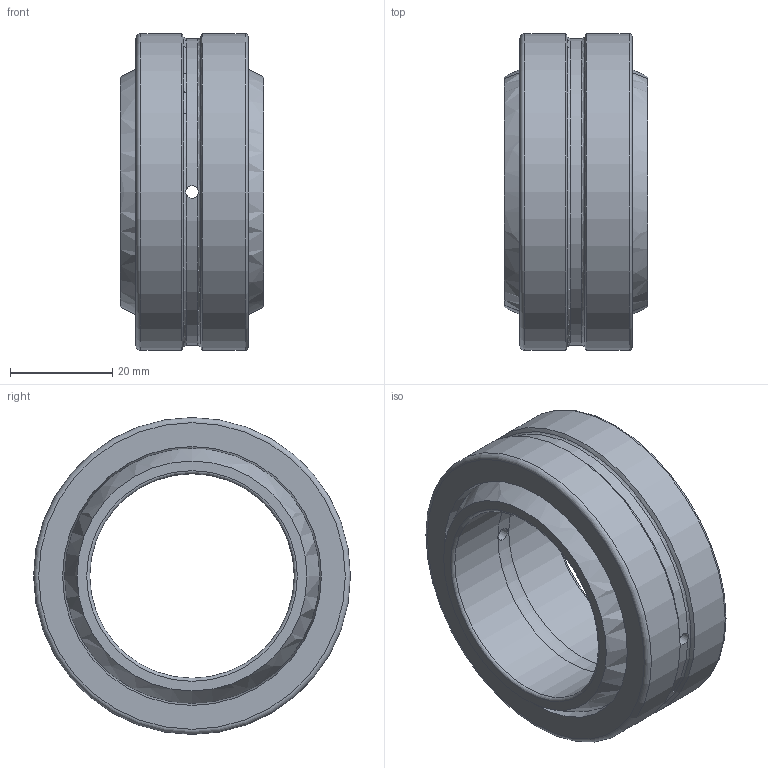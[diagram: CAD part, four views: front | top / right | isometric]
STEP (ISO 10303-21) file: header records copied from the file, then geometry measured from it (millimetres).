
FILE_DESCRIPTION(/* description */ (''),/* implementation_level */ '2;1');
FILE_NAME(/* name */ 'D:\moje\parametrické\GE--\GE--_\GE40E.stp',/* time_stamp */ '2016-08-17T13:59:09+02:00',/* author */ ('OUBALASKO'),/* organization */ (''),/* preprocessor_version */ 'ST-DEVELOPER v15.6',/* originating_system */ 'Autodesk Inventor 2015',/* authorisation */ '');
FILE_SCHEMA (('AUTOMOTIVE_DESIGN { 1 0 10303 214 3 1 1 }'));
Length unit declared in the file: millimetre
Products named in the file (3): GE40E-02; GE40E-01; GE40E
Assembly tree (2 placements, depth 2):
  GE40E
    GE40E-02
    GE40E-01
Bounding box: 28 x 62 x 62 mm (x, y, z)
Volume: 40142.9 mm3; surface area: 18879.8 mm2
Topology: 2 solids, 2 shells, 29 faces, 75 edges, 48 vertices
Faces by surface type: torus 10, cylinder 10, plane 4, sphere 3, cone 2
Full cylindrical faces by diameter (mm): 2.5 x4, 40 x2, 62 x2
Entity records: 999 total; most frequent: CARTESIAN_POINT 368, DIRECTION 124, ORIENTED_EDGE 84, EDGE_LOOP 62, AXIS2_PLACEMENT_3D 62, EDGE_CURVE 42, VERTEX_POINT 38, FACE_BOUND 34
